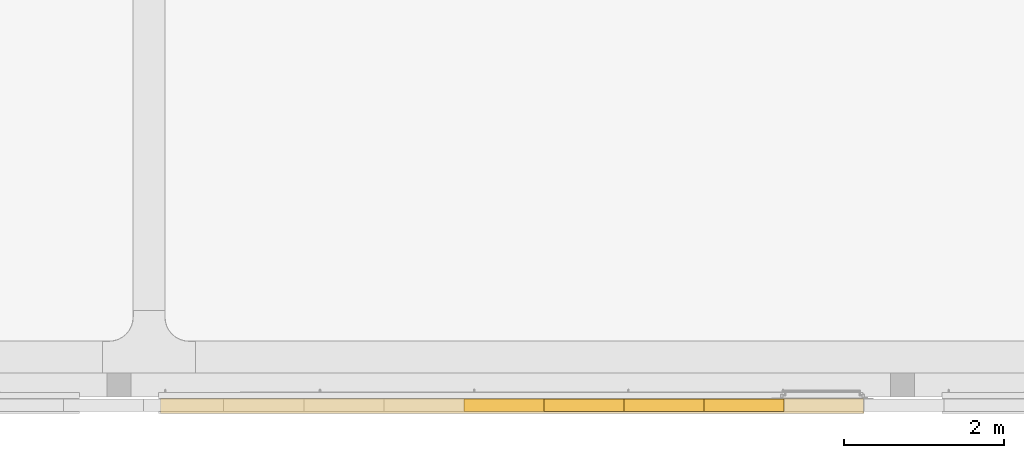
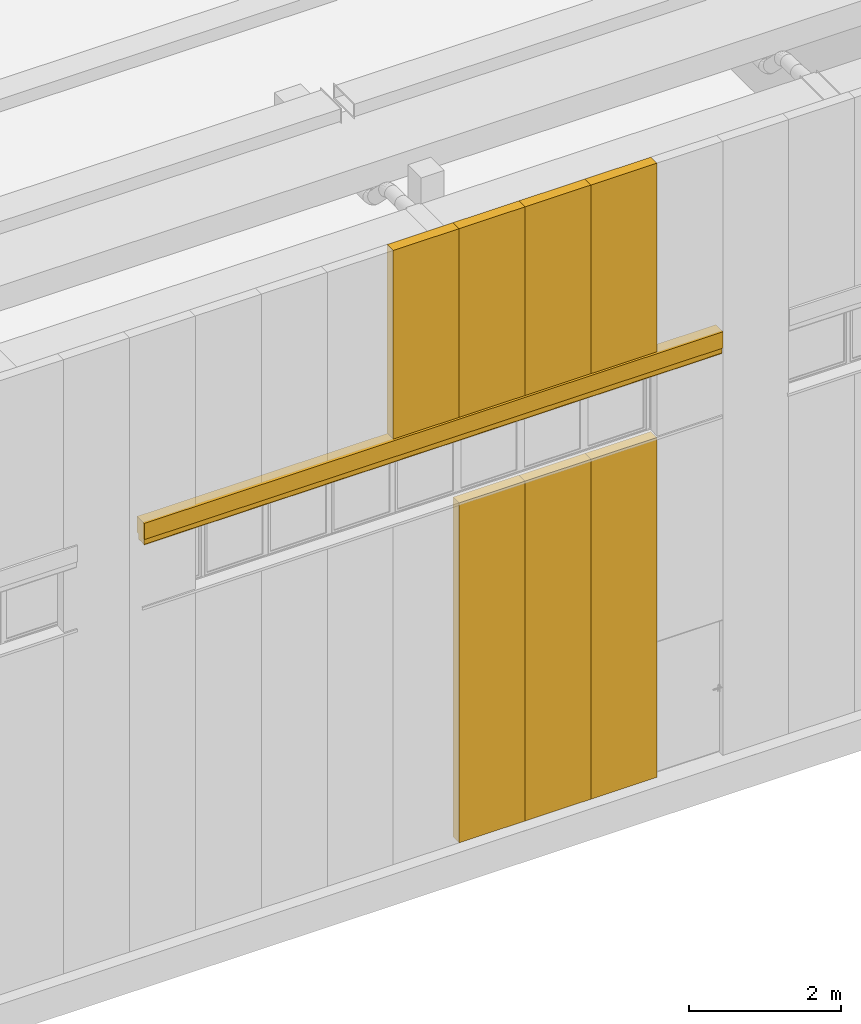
# One storey, part 221 of 302: 7 curtain walls, 1 window, 1 element without a shape of its own.
"""IFC2X3 building model written with IfcOpenShell, lengths in metres."""

from ifc_helpers import new_model, entity, si_unit, converted_unit, derived_unit, direction, frame, frame_2d, origin, origin_2d_with_axis, place, context, subcontext, project, spatial, polyline, circle_curve, parameter, trimmed, segment, composite_curve, rectangle, outline, extrude, source, transform, mapped, material, material_list, layer, layer_set, layer_usage, type_object, type_shapes, element, aggregate, save


model = new_model("IFC2X3")

# Units and contexts
model_context = context("Model", 3, precision=1e-05, world=origin(), true_north=direction((6.12303176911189e-17, 1.0)))
body_context = subcontext(model_context, "Body", "Model", "MODEL_VIEW")
ifc_project = project(units=[si_unit("LENGTHUNIT", "METRE"), si_unit("AREAUNIT", "SQUARE_METRE"), si_unit("VOLUMEUNIT", "CUBIC_METRE"), converted_unit("PLANEANGLEUNIT", "DEGREE", entity("IfcRatioMeasure", 0.0174532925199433), si_unit("PLANEANGLEUNIT", "RADIAN"), dimensions=[0, 0, 0, 0, 0, 0, 0]), si_unit("MASSUNIT", "GRAM", prefix="KILO"), derived_unit("MASSDENSITYUNIT", [(si_unit("MASSUNIT", "GRAM", prefix="KILO"), 1), (si_unit("LENGTHUNIT", "METRE"), -3)]), derived_unit("MOMENTOFINERTIAUNIT", [(si_unit("LENGTHUNIT", "METRE"), 4)]), si_unit("TIMEUNIT", "SECOND"), si_unit("FREQUENCYUNIT", "HERTZ"), si_unit("THERMODYNAMICTEMPERATUREUNIT", "DEGREE_CELSIUS"), derived_unit("THERMALTRANSMITTANCEUNIT", [(si_unit("MASSUNIT", "GRAM", prefix="KILO"), 1), (si_unit("THERMODYNAMICTEMPERATUREUNIT", "KELVIN"), -1), (si_unit("TIMEUNIT", "SECOND"), -3)]), derived_unit("VOLUMETRICFLOWRATEUNIT", [(si_unit("LENGTHUNIT", "METRE"), 3), (si_unit("TIMEUNIT", "SECOND"), -1)]), si_unit("ELECTRICCURRENTUNIT", "AMPERE"), si_unit("ELECTRICVOLTAGEUNIT", "VOLT"), si_unit("POWERUNIT", "WATT"), si_unit("FORCEUNIT", "NEWTON", prefix="KILO"), si_unit("ILLUMINANCEUNIT", "LUX"), si_unit("LUMINOUSFLUXUNIT", "LUMEN"), si_unit("LUMINOUSINTENSITYUNIT", "CANDELA"), derived_unit("USERDEFINED", [(si_unit("MASSUNIT", "GRAM", prefix="KILO"), -1), (si_unit("LENGTHUNIT", "METRE"), -2), (si_unit("TIMEUNIT", "SECOND"), 3), (si_unit("LUMINOUSFLUXUNIT", "LUMEN"), 1)]), derived_unit("LINEARVELOCITYUNIT", [(si_unit("LENGTHUNIT", "METRE"), 1), (si_unit("TIMEUNIT", "SECOND"), -1)]), si_unit("PRESSUREUNIT", "PASCAL"), derived_unit("USERDEFINED", [(si_unit("LENGTHUNIT", "METRE"), -2), (si_unit("MASSUNIT", "GRAM", prefix="KILO"), 1), (si_unit("TIMEUNIT", "SECOND"), -2)]), derived_unit("LINEARFORCEUNIT", [(si_unit("MASSUNIT", "GRAM", prefix="KILO"), 1), (si_unit("LENGTHUNIT", "METRE"), 1), (si_unit("TIMEUNIT", "SECOND"), -2), (si_unit("LENGTHUNIT", "METRE"), -1)]), derived_unit("PLANARFORCEUNIT", [(si_unit("MASSUNIT", "GRAM", prefix="KILO"), 1), (si_unit("LENGTHUNIT", "METRE"), 1), (si_unit("TIMEUNIT", "SECOND"), -2), (si_unit("LENGTHUNIT", "METRE"), -2)])], contexts=[model_context])

# Site, building, storey
site_placement = place(None, origin())
site = spatial("IfcSite", under=ifc_project, at=site_placement, Name="Default", CompositionType="ELEMENT")
building_placement = place(site_placement, origin())
building = spatial("IfcBuilding", under=site, at=building_placement, CompositionType="ELEMENT")
storey_placement = place(building_placement, frame((0.0, 0.0, -1.3)))
storey = spatial("IfcBuildingStorey", under=building, at=storey_placement, Name="00_EG", CompositionType="ELEMENT", Elevation=-1.3)

# Curtain walls
curtain_wall_type_1 = type_object("IfcCurtainWallType", Name="Fassade:Sandwichpaneele 16cm", PredefinedType="NOTDEFINED")
curtain_wall_1_placement = place(storey_placement, frame((0.0, 0.0, 1.3)))
curtain_wall_1 = element("IfcCurtainWall", 1, at=curtain_wall_1_placement, inside=storey, type_object=curtain_wall_type_1, Name="Fassade:Sandwichpaneele 16cm", ObjectType="Fassade:Sandwichpaneele 16cm")
ifc_material_1 = material(Name="Prepainted_Steel-ArcelorMittal_Construction_HAIRULTRA-35-CORAL-4309-[RAL_3000]")
ifc_layer_1 = layer(ifc_material_1, 0.015)
ifc_material_2 = material(Name="ArcelorMittal-MineralWool")
ifc_layer_2 = layer(ifc_material_2, 0.13)
ifc_material_3 = material(Name="Prepainted_Steel-ArcelorMittal_Construction_INTÉRIEUR-12-WHITE-912")
ifc_layer_3 = layer(ifc_material_3, 0.015)
ifc_layer_set = layer_set([ifc_layer_1, ifc_layer_2, ifc_layer_3], Name="Fassade:Sandwichpaneele 16cm")
ifc_layer_usage_1 = layer_usage(ifc_layer_set, "AXIS2", "POSITIVE", -0.08)
curtain_wall_type_2 = type_object("IfcCurtainWallType", Name="Basiswand:Sandwichpaneele d = 16cm aussen", PredefinedType="NOTDEFINED", material=ifc_layer_set)
curtain_wall_2_placement = place(storey_placement, frame((-231.840111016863, 14.898088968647, 1.27)))
curtain_wall_2 = element("IfcCurtainWall", 2, at=curtain_wall_2_placement, type_object=curtain_wall_type_2, material=ifc_layer_usage_1, Name="Basiswand:Sandwichpaneele d = 16cm aussen", ObjectType="Basiswand:Sandwichpaneele d = 16cm aussen", context=body_context, shape_type="SweptSolid", body=[
    extrude(rectangle(XDim=1.00000000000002, YDim=0.159999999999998, at=frame_2d((0.500000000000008, 0.0), x_axis=(-1.0, 0.0))), origin(), (0.0, 0.0, 1.0), 5.44999999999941),
])
ifc_layer_usage_2 = layer_usage(ifc_layer_set, "AXIS2", "POSITIVE", -0.08)
curtain_wall_3_placement = place(storey_placement, frame((-230.840111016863, 14.898088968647, 1.27)))
curtain_wall_3 = element("IfcCurtainWall", 3, at=curtain_wall_3_placement, type_object=curtain_wall_type_2, material=ifc_layer_usage_2, Name="Basiswand:Sandwichpaneele d = 16cm aussen", ObjectType="Basiswand:Sandwichpaneele d = 16cm aussen", context=body_context, shape_type="SweptSolid", body=[
    extrude(rectangle(XDim=0.999999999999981, YDim=0.159999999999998, at=frame_2d((0.49999999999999, 0.0), x_axis=(-1.0, 0.0))), origin(), (0.0, 0.0, 1.0), 5.44999999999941),
])
ifc_layer_usage_3 = layer_usage(ifc_layer_set, "AXIS2", "POSITIVE", -0.08)
curtain_wall_4_placement = place(storey_placement, frame((-229.840111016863, 14.898088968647, 1.27)))
curtain_wall_4 = element("IfcCurtainWall", 4, at=curtain_wall_4_placement, type_object=curtain_wall_type_2, material=ifc_layer_usage_3, Name="Basiswand:Sandwichpaneele d = 16cm aussen", ObjectType="Basiswand:Sandwichpaneele d = 16cm aussen", context=body_context, shape_type="SweptSolid", body=[
    extrude(rectangle(XDim=1.00000000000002, YDim=0.159999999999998, at=frame_2d((0.500000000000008, 0.0), x_axis=(-1.0, 0.0))), origin(), (0.0, 0.0, 1.0), 5.44999999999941),
])
ifc_layer_usage_4 = layer_usage(ifc_layer_set, "AXIS2", "POSITIVE", -0.08)
curtain_wall_5_placement = place(storey_placement, frame((-232.840111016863, 14.898088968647, 8.09499999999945)))
curtain_wall_5 = element("IfcCurtainWall", 5, at=curtain_wall_5_placement, type_object=curtain_wall_type_2, material=ifc_layer_usage_4, Name="Basiswand:Sandwichpaneele d = 16cm aussen", ObjectType="Basiswand:Sandwichpaneele d = 16cm aussen", context=body_context, shape_type="SweptSolid", body=[
    extrude(rectangle(XDim=0.999999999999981, YDim=0.159999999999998, at=frame_2d((0.49999999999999, 0.0), x_axis=(-1.0, 0.0))), origin(), (0.0, 0.0, 1.0), 3.02590000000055),
])
ifc_layer_usage_5 = layer_usage(ifc_layer_set, "AXIS2", "POSITIVE", -0.08)
curtain_wall_6_placement = place(storey_placement, frame((-231.840111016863, 14.898088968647, 8.09499999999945)))
curtain_wall_6 = element("IfcCurtainWall", 6, at=curtain_wall_6_placement, type_object=curtain_wall_type_2, material=ifc_layer_usage_5, Name="Basiswand:Sandwichpaneele d = 16cm aussen", ObjectType="Basiswand:Sandwichpaneele d = 16cm aussen", context=body_context, shape_type="SweptSolid", body=[
    extrude(rectangle(XDim=1.00000000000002, YDim=0.159999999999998, at=frame_2d((0.500000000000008, 0.0), x_axis=(-1.0, 0.0))), origin(), (0.0, 0.0, 1.0), 3.02590000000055),
])
ifc_layer_usage_6 = layer_usage(ifc_layer_set, "AXIS2", "POSITIVE", -0.08)
curtain_wall_7_placement = place(storey_placement, frame((-230.840111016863, 14.898088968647, 8.09499999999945)))
curtain_wall_7 = element("IfcCurtainWall", 7, at=curtain_wall_7_placement, type_object=curtain_wall_type_2, material=ifc_layer_usage_6, Name="Basiswand:Sandwichpaneele d = 16cm aussen", ObjectType="Basiswand:Sandwichpaneele d = 16cm aussen", context=body_context, shape_type="SweptSolid", body=[
    extrude(rectangle(XDim=0.999999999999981, YDim=0.159999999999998, at=frame_2d((0.49999999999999, 0.0), x_axis=(-1.0, 0.0))), origin(), (0.0, 0.0, 1.0), 3.02590000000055),
])
ifc_layer_usage_7 = layer_usage(ifc_layer_set, "AXIS2", "POSITIVE", -0.08)
curtain_wall_8_placement = place(storey_placement, frame((-229.840111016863, 14.898088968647, 8.09499999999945)))
curtain_wall_8 = element("IfcCurtainWall", 8, at=curtain_wall_8_placement, type_object=curtain_wall_type_2, material=ifc_layer_usage_7, Name="Basiswand:Sandwichpaneele d = 16cm aussen", ObjectType="Basiswand:Sandwichpaneele d = 16cm aussen", context=body_context, shape_type="SweptSolid", body=[
    extrude(rectangle(XDim=1.00000000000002, YDim=0.159999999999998, at=frame_2d((0.500000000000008, 0.0), x_axis=(-1.0, 0.0))), origin(), (0.0, 0.0, 1.0), 3.02590000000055),
])
aggregate(curtain_wall_1, [curtain_wall_2, curtain_wall_3, curtain_wall_4, curtain_wall_5, curtain_wall_6, curtain_wall_7, curtain_wall_8])

# Window
ifc_material_4 = material(Name="Metall - Edelstahl satiniert")
ifc_material_5 = material(Name="Metall - Raffstore vertikale Stellung")
ifc_material_6 = material(Name="<Unnamed>")
ifc_material_list_1 = material_list([ifc_material_4, ifc_material_4, ifc_material_5, ifc_material_6, ifc_material_5, ifc_material_5, ifc_material_4])
ifc_material_list_2 = material_list([ifc_material_4, ifc_material_4, ifc_material_5, ifc_material_6, ifc_material_5, ifc_material_5, ifc_material_4])
window_style = type_object("IfcWindowStyle", Name="Blende Raffstore:Raffstore geschlossen, Stellung senkrecht", ConstructionType="NOTDEFINED", OperationType="NOTDEFINED", ParameterTakesPrecedence=False, Sizeable=False, material=ifc_material_list_2)
shared_shape = source(origin(), body_context, "Body", "SweptSolid", [
    extrude(rectangle(XDim=0.00500000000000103, YDim=0.189999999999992, at=origin_2d_with_axis()), frame((8.7775, 0.0949999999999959, 0.0), z_axis=(0.0, 0.0, 1.0), x_axis=(-1.0, 0.0, 0.0)), (0.0, 0.0, 1.0), 0.259999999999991),
    extrude(rectangle(XDim=0.00500000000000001, YDim=0.190000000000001, at=origin_2d_with_axis()), frame((0.00250000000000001, 0.0950000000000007, 0.0), z_axis=(0.0, 0.0, 1.0), x_axis=(-1.0, 0.0, 0.0)), (0.0, 0.0, 1.0), 0.260000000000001),
    extrude(outline(composite_curve([segment(polyline([(-0.122576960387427, -0.0750000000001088), (0.122576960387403, -0.0750000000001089)]), True, "CONTINUOUS"), segment(trimmed(circle_curve(frame_2d((0.424460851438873, 0.0), x_axis=(0.0, 1.0)), 0.311060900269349), [parameter(76.0479171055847)], [parameter(103.952082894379)], True, "PARAMETER"), False, "CONTINUOUS"), segment(polyline([(0.122576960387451, 0.0750000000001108), (-0.122576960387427, 0.0750000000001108)]), True, "CONTINUOUS"), segment(polyline([(-0.122576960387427, 0.0750000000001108), (-0.122576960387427, -0.0750000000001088)]), True, "CONTINUOUS")], self_intersect=False)), frame((0.005, 0.0950000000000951, 0.0324230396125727), z_axis=(1.0, 0.0, 0.0), x_axis=(0.0, 0.0, -1.0)), (0.0, 0.0, 1.0), 8.77),
    extrude(rectangle(XDim=8.77, YDim=0.0799999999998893, at=frame_2d((0.0, 1.73472347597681e-17), x_axis=(1.0, 0.0))), frame((4.39, 0.0950000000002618, 0.175), z_axis=(0.0, 0.0, 1.0), x_axis=(-1.0, 0.0, 0.0)), (0.0, 0.0, 1.0), 0.0799999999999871),
    extrude(outline(composite_curve([segment(trimmed(circle_curve(frame_2d((-0.28429694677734, 0.098190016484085), x_axis=(0.326455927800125, 0.945212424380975)), 0.309068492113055), [parameter(255.956135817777)], [parameter(284.043864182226)], True, "PARAMETER"), False, "CONTINUOUS"), segment(polyline([(-0.0253776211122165, -0.070582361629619), (-0.023803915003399, -0.0718166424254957)]), True, "CONTINUOUS"), segment(trimmed(circle_curve(frame_2d((-0.28429694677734, 0.098190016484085), x_axis=(0.326455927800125, 0.945212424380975)), 0.311060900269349), [parameter(255.923964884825)], [parameter(284.076035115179)], True, "PARAMETER"), True, "CONTINUOUS"), segment(polyline([(0.025590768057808, 0.0711995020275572), (0.0235907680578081, 0.0711995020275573)]), True, "CONTINUOUS")], self_intersect=False)), frame((0.005, 0.0950000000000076, -0.0990547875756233), z_axis=(-1.0, 0.0, 0.0), x_axis=(0.0, 0.326455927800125, 0.945212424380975)), (0.0, 0.0, -1.0), 8.76999999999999),
    extrude(outline(composite_curve([segment(trimmed(circle_curve(frame_2d((-0.284296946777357, 0.0981900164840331), x_axis=(0.326455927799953, 0.945212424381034)), 0.309068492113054), [parameter(255.956135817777)], [parameter(284.043864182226)], True, "PARAMETER"), False, "CONTINUOUS"), segment(polyline([(-0.0253776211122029, -0.0705823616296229), (-0.0238039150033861, -0.0718166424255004)]), True, "CONTINUOUS"), segment(trimmed(circle_curve(frame_2d((-0.284296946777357, 0.0981900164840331), x_axis=(0.326455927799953, 0.945212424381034)), 0.311060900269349), [parameter(255.923964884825)], [parameter(284.076035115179)], True, "PARAMETER"), True, "CONTINUOUS"), segment(polyline([(0.0255907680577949, 0.0711995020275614), (0.023590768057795, 0.0711995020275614)]), True, "CONTINUOUS")], self_intersect=False)), frame((0.005, 0.0950000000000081, -0.0912620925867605), z_axis=(-1.0, 0.0, 0.0), x_axis=(0.0, 0.326455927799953, 0.945212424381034)), (0.0, 0.0, -1.0), 8.76999999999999),
    extrude(outline(polyline([(-0.167154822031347, -0.095000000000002), (0.0928451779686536, -0.095000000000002), (0.077845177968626, -0.0799999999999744), (0.077845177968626, -0.0870710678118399), (0.0807741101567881, -0.090000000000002), (-0.162154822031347, -0.0900000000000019), (-0.162154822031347, 0.0899999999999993), (0.0807741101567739, 0.0899999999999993), (0.0778451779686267, 0.0870710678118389), (0.0778451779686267, 0.0799999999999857), (0.0928451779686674, 0.0949999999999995), (-0.167154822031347, 0.0949999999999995), (-0.167154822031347, -0.095000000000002)])), frame((0.005, 0.095000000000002, 0.0928451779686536), z_axis=(1.0, 0.0, 0.0), x_axis=(0.0, 0.0, -1.0)), (0.0, 0.0, 1.0), 8.77),
])
type_shapes(window_style, [shared_shape])
window_placement = place(storey_placement, frame((-227.848861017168, 14.983088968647, 7.82500000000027), z_axis=(0.0, 0.0, 1.0), x_axis=(-1.0, 0.0, 0.0)))
element("IfcWindow", 9, at=window_placement, inside=storey, type_object=window_style, material=ifc_material_list_1, Name="Blende Raffstore:Raffstore geschlossen, Stellung senkrecht", ObjectType="Blende Raffstore:Raffstore geschlossen, Stellung senkrecht", OverallHeight=0.360000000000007, OverallWidth=8.78, context=body_context, shape_type="MappedRepresentation", body=[
    mapped(shared_shape, transform((0.0, 0.0, 0.0), scale=1.0)),
])

save(model, "model.ifc")
